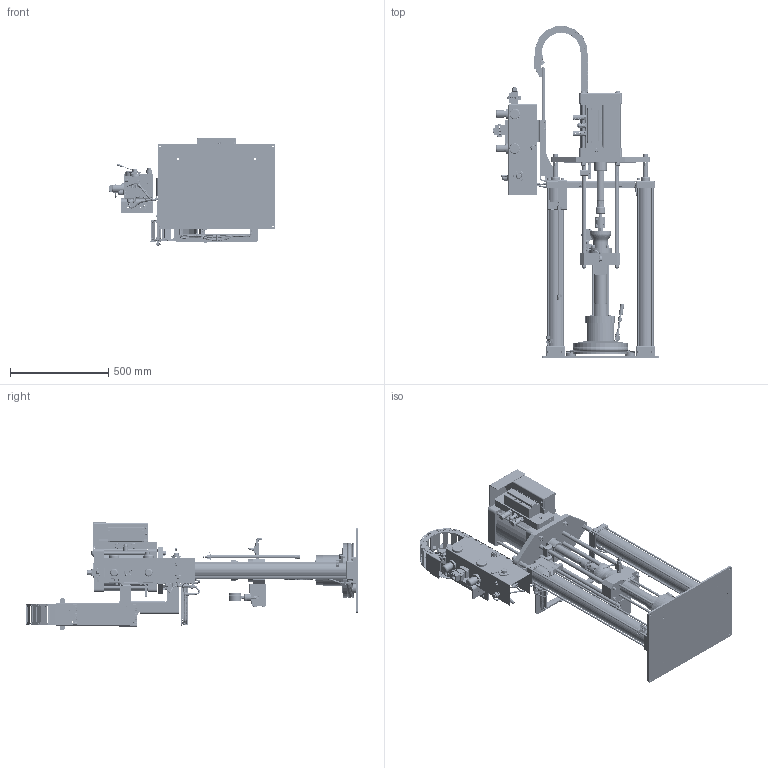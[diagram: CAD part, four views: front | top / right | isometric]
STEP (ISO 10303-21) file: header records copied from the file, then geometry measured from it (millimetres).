
FILE_DESCRIPTION (( 'STEP AP203' ), '1' );
FILE_NAME ('1624014.step', '2024-05-02T13:47:27', ( '' ), ( '' ), 'SwSTEP 2.0', 'SolidWorks 2021', '' );
FILE_SCHEMA (( 'CONFIG_CONTROL_DESIGN' ));
Length unit declared in the file: millimetre
Products named in the file (1): 1624014
Bounding box: 845.74 x 1686.89 x 550.19 mm (x, y, z)
Surface area: 5234186.7 mm2 (no closed solid volume)
Topology: 0 solids, 1078 shells, 4792 faces, 30171 edges, 25886 vertices
Faces by surface type: plane 3003, cylinder 1198, cone 287, bspline 152, torus 138, sphere 14
Full cylindrical faces by diameter (mm): 1.207 x1, 1.27 x1, 2.1 x1, 2.464 x3, 2.705 x1, 3 x7, 3.02 x10, 3.175 x1, 3.4 x4, 3.5 x1, 4 x10, 4.2 x1, 4.3 x1, 4.318 x1, 4.699 x1, 5 x6, 5.1 x19, 5.4 x1, 5.563 x3, 5.58 x1, 6 x13, 6.145 x3, 6.8 x2, 7.37 x2, 7.49 x2, 7.544 x1, 7.7 x4, 8 x13, 8.2 x4, 8.5 x5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
Entity records: 369620 total; most frequent: CARTESIAN_POINT 158253, DIRECTION 37943, ORIENTED_EDGE 35411, EDGE_CURVE 29208, VERTEX_POINT 25711, LINE 18009, VECTOR 18009, AXIS2_PLACEMENT_3D 9967
